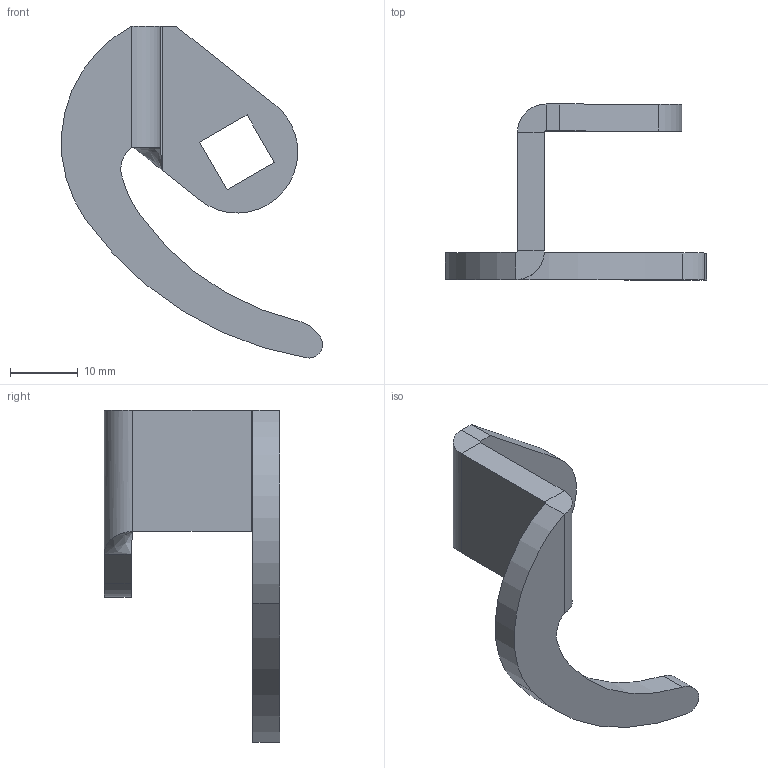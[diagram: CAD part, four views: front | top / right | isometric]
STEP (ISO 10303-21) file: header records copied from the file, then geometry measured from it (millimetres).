
FILE_DESCRIPTION (( 'STEP AP214' ), '1' );
FILE_NAME ('1C.J-6000.01.STEP', '2016-08-17T12:15:53', ( 'RST-Dolba' ), ( '' ), 'SwSTEP 2.0', 'SolidWorks 2015', '' );
FILE_SCHEMA (( 'AUTOMOTIVE_DESIGN' ));
Length unit declared in the file: millimetre
Products named in the file (1): 1C.J-6000.01
Bounding box: 38.67 x 26 x 49.19 mm (x, y, z)
Volume: 4793.4 mm3; surface area: 3441.3 mm2
Topology: 1 solids, 1 shells, 34 faces, 80 edges, 48 vertices
Faces by surface type: plane 18, cylinder 15, bspline 1
Entity records: 1025 total; most frequent: CARTESIAN_POINT 196, DIRECTION 174, ORIENTED_EDGE 160, EDGE_CURVE 80, AXIS2_PLACEMENT_3D 62, LINE 50, VECTOR 50, VERTEX_POINT 48
